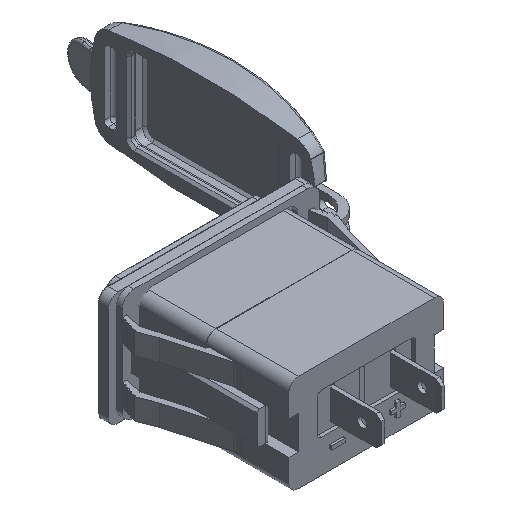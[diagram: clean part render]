
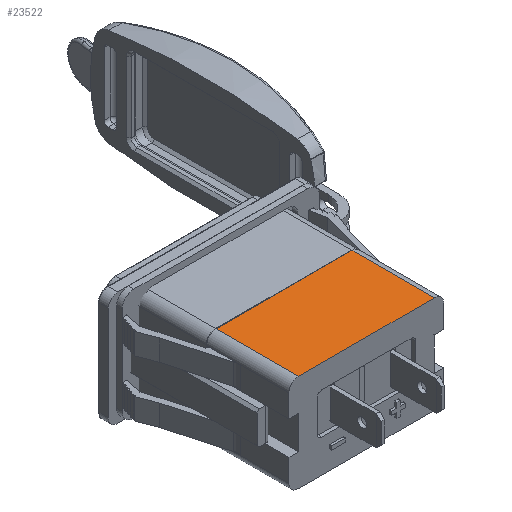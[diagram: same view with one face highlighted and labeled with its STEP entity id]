
A CAD part, isometric view. The second image highlights one B-rep face of the part: STEP entity #23522.
In plain terms, the highlighted planar face has unit normal (0, 0, 1).
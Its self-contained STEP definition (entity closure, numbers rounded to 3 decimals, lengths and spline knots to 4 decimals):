
#1281=PLANE('',#25201);
#2203=FACE_OUTER_BOUND('',#3574,.T.);
#3574=EDGE_LOOP('',(#18513,#18514,#18515,#18516));
#5454=LINE('',#34349,#8041);
#5524=LINE('',#34499,#8111);
#5702=LINE('',#34887,#8289);
#5703=LINE('',#34888,#8290);
#8041=VECTOR('',#28265,39.3701);
#8111=VECTOR('',#28359,39.3701);
#8289=VECTOR('',#28715,39.3701);
#8290=VECTOR('',#28716,39.3701);
#10885=VERTEX_POINT('',#34346);
#10886=VERTEX_POINT('',#34348);
#10953=VERTEX_POINT('',#34496);
#10954=VERTEX_POINT('',#34498);
#13517=EDGE_CURVE('',#10886,#10885,#5454,.T.);
#13593=EDGE_CURVE('',#10953,#10954,#5524,.T.);
#13794=EDGE_CURVE('',#10953,#10886,#5702,.T.);
#13795=EDGE_CURVE('',#10885,#10954,#5703,.T.);
#18513=ORIENTED_EDGE('',*,*,#13593,.F.);
#18514=ORIENTED_EDGE('',*,*,#13794,.T.);
#18515=ORIENTED_EDGE('',*,*,#13517,.T.);
#18516=ORIENTED_EDGE('',*,*,#13795,.T.);
#23522=ADVANCED_FACE('',(#2203),#1281,.F.);
#25201=AXIS2_PLACEMENT_3D('',#34886,#28713,#28714);
#28265=DIRECTION('',(1.,0.,0.));
#28359=DIRECTION('',(1.,0.,0.));
#28713=DIRECTION('center_axis',(0.,0.,-1.));
#28714=DIRECTION('ref_axis',(-1.,0.,0.));
#28715=DIRECTION('',(0.,-1.,0.));
#28716=DIRECTION('',(0.,1.,0.));
#34346=CARTESIAN_POINT('',(0.5689,0.,0.4075));
#34348=CARTESIAN_POINT('',(-0.5689,0.,0.4075));
#34349=CARTESIAN_POINT('',(-0.6476,0.,0.4075));
#34496=CARTESIAN_POINT('',(-0.5689,0.689,0.4075));
#34498=CARTESIAN_POINT('',(0.5689,0.689,0.4075));
#34499=CARTESIAN_POINT('',(-0.6476,0.689,0.4075));
#34886=CARTESIAN_POINT('Origin',(-0.6476,1.2992,0.4075));
#34887=CARTESIAN_POINT('',(-0.5689,1.2992,0.4075));
#34888=CARTESIAN_POINT('',(0.5689,1.2992,0.4075));
